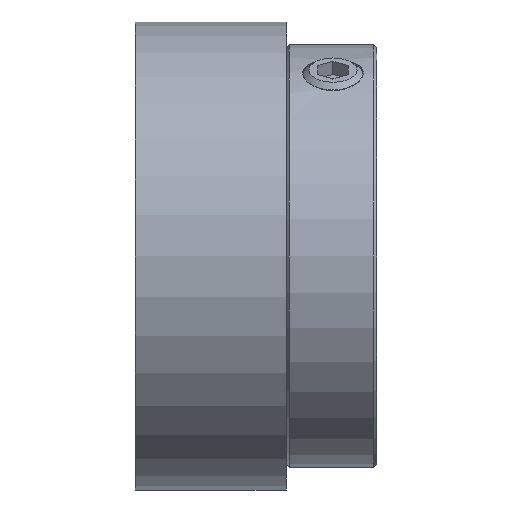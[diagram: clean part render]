
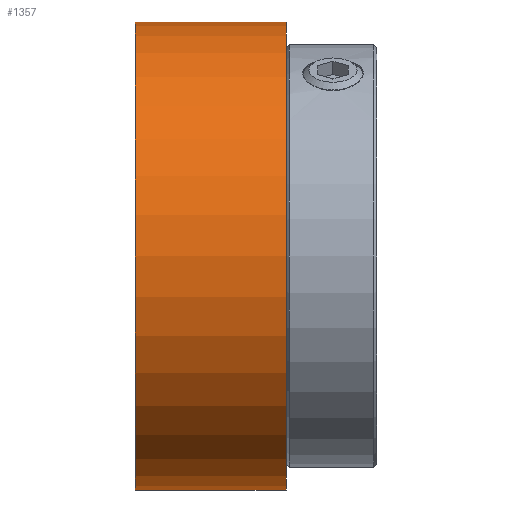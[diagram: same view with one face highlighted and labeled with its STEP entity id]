
A CAD part, front view. The second image highlights one B-rep face of the part: STEP entity #1357.
In plain terms, the highlighted cylindrical face has radius 15.5 mm (diameter 31 mm), a full revolution.
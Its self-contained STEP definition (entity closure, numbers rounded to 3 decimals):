
#200 = CARTESIAN_POINT ( 'NONE',  ( 9.5, 0., 0. ) ) ;
#205 = DIRECTION ( 'NONE',  ( 0., 0., -1. ) ) ;
#207 = DIRECTION ( 'NONE',  ( 1., 0., 0. ) ) ;
#274 = CARTESIAN_POINT ( 'NONE',  ( -0.5, 0., 0. ) ) ;
#281 = DIRECTION ( 'NONE',  ( 0., 0., -1. ) ) ;
#282 = DIRECTION ( 'NONE',  ( 1., 0., 0. ) ) ;
#327 = EDGE_CURVE ( 'NONE', #1261, #1261, #943, .T. ) ;
#353 = AXIS2_PLACEMENT_3D ( 'NONE', #1036, #838, #1043 ) ;
#438 = AXIS2_PLACEMENT_3D ( 'NONE', #200, #207, #205 ) ;
#447 = AXIS2_PLACEMENT_3D ( 'NONE', #274, #282, #281 ) ;
#460 = EDGE_CURVE ( 'NONE', #1268, #1268, #977, .T. ) ;
#580 = ORIENTED_EDGE ( 'NONE', *, *, #460, .F. ) ;
#765 = ORIENTED_EDGE ( 'NONE', *, *, #327, .T. ) ;
#838 = DIRECTION ( 'NONE',  ( -1., 0., 0. ) ) ;
#943 = CIRCLE ( 'NONE', #447, 15.5 ) ;
#955 = CARTESIAN_POINT ( 'NONE',  ( 9.5, 0., -15.5 ) ) ;
#977 = CIRCLE ( 'NONE', #438, 15.5 ) ;
#981 = CARTESIAN_POINT ( 'NONE',  ( -0.5, 0., -15.5 ) ) ;
#1036 = CARTESIAN_POINT ( 'NONE',  ( 9.5, 0., 0. ) ) ;
#1043 = DIRECTION ( 'NONE',  ( 0., 0., 1. ) ) ;
#1227 = FACE_OUTER_BOUND ( 'NONE', #1407, .T. ) ;
#1233 = FACE_OUTER_BOUND ( 'NONE', #1460, .T. ) ;
#1240 = CYLINDRICAL_SURFACE ( 'NONE', #353, 15.5 ) ;
#1261 = VERTEX_POINT ( 'NONE', #981 ) ;
#1268 = VERTEX_POINT ( 'NONE', #955 ) ;
#1357 = ADVANCED_FACE ( 'NONE', ( #1233, #1227 ), #1240, .T. ) ;
#1407 = EDGE_LOOP ( 'NONE', ( #765 ) ) ;
#1460 = EDGE_LOOP ( 'NONE', ( #580 ) ) ;
